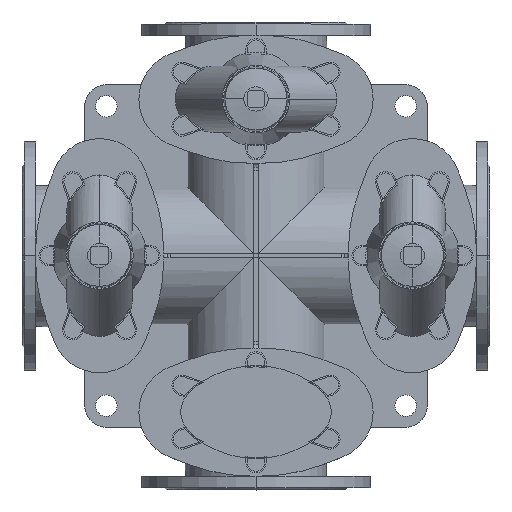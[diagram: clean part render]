
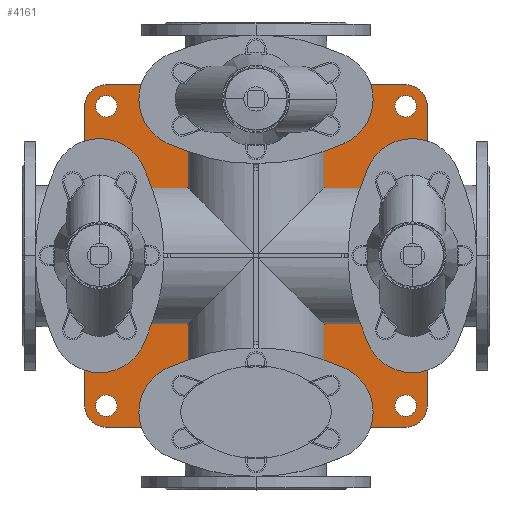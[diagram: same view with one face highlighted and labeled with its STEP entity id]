
A CAD part, top view. The second image highlights one B-rep face of the part: STEP entity #4161.
In plain terms, the highlighted planar face has unit normal (0, 0, 1).
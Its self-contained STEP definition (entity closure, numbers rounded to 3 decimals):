
#4161=ADVANCED_FACE('',(#9054,#9055,#9056,#9057,#9058),#9059,.F.);
#9054=FACE_BOUND('',#16173,.T.);
#9055=FACE_BOUND('',#16174,.T.);
#9056=FACE_BOUND('',#16175,.T.);
#9057=FACE_BOUND('',#16176,.T.);
#9058=FACE_OUTER_BOUND('',#16177,.T.);
#9059=PLANE('',#16178);
#16173=EDGE_LOOP('',(#23358,#23359));
#16174=EDGE_LOOP('',(#23360,#23361));
#16175=EDGE_LOOP('',(#23362,#23363));
#16176=EDGE_LOOP('',(#23364,#23365));
#16177=EDGE_LOOP('',(#23366,#23367,#23368,#23369,#23370,#23371,#23372,#23373));
#16178=AXIS2_PLACEMENT_3D('',#23374,#23375,#23376);
#23358=ORIENTED_EDGE('',*,*,#39290,.T.);
#23359=ORIENTED_EDGE('',*,*,#38700,.T.);
#23360=ORIENTED_EDGE('',*,*,#39291,.T.);
#23361=ORIENTED_EDGE('',*,*,#39292,.T.);
#23362=ORIENTED_EDGE('',*,*,#39293,.T.);
#23363=ORIENTED_EDGE('',*,*,#39294,.T.);
#23364=ORIENTED_EDGE('',*,*,#39295,.T.);
#23365=ORIENTED_EDGE('',*,*,#39296,.T.);
#23366=ORIENTED_EDGE('',*,*,#38674,.F.);
#23367=ORIENTED_EDGE('',*,*,#39297,.F.);
#23368=ORIENTED_EDGE('',*,*,#39298,.F.);
#23369=ORIENTED_EDGE('',*,*,#39299,.F.);
#23370=ORIENTED_EDGE('',*,*,#39300,.F.);
#23371=ORIENTED_EDGE('',*,*,#39301,.F.);
#23372=ORIENTED_EDGE('',*,*,#39302,.F.);
#23373=ORIENTED_EDGE('',*,*,#39303,.F.);
#23374=CARTESIAN_POINT('',(347.5,0.,27.0));
#23375=DIRECTION('',(0.0,0.0,-1.0));
#23376=DIRECTION('',(-1.0,0.0,0.0));
#38674=EDGE_CURVE('',#45354,#45355,#45356,.T.);
#38700=EDGE_CURVE('',#45402,#45399,#45403,.T.);
#39290=EDGE_CURVE('',#45399,#45402,#46444,.T.);
#39291=EDGE_CURVE('',#46445,#46446,#46447,.T.);
#39292=EDGE_CURVE('',#46446,#46445,#46448,.T.);
#39293=EDGE_CURVE('',#46449,#46450,#46451,.T.);
#39294=EDGE_CURVE('',#46450,#46449,#46452,.T.);
#39295=EDGE_CURVE('',#46453,#46454,#46455,.T.);
#39296=EDGE_CURVE('',#46454,#46453,#46456,.T.);
#39297=EDGE_CURVE('',#46457,#45354,#46458,.T.);
#39298=EDGE_CURVE('',#46459,#46457,#46460,.T.);
#39299=EDGE_CURVE('',#46461,#46459,#46462,.T.);
#39300=EDGE_CURVE('',#46463,#46461,#46464,.T.);
#39301=EDGE_CURVE('',#46465,#46463,#46466,.T.);
#39302=EDGE_CURVE('',#46467,#46465,#46468,.T.);
#39303=EDGE_CURVE('',#45355,#46467,#46469,.T.);
#45354=VERTEX_POINT('',#54895);
#45355=VERTEX_POINT('',#54896);
#45356=LINE('',#54897,#54898);
#45399=VERTEX_POINT('',#54956);
#45402=VERTEX_POINT('',#54960);
#45403=CIRCLE('',#54961,16.0);
#46444=CIRCLE('',#56264,16.0);
#46445=VERTEX_POINT('',#56265);
#46446=VERTEX_POINT('',#56266);
#46447=CIRCLE('',#56267,16.0);
#46448=CIRCLE('',#56268,16.0);
#46449=VERTEX_POINT('',#56269);
#46450=VERTEX_POINT('',#56270);
#46451=CIRCLE('',#56271,16.0);
#46452=CIRCLE('',#56272,16.0);
#46453=VERTEX_POINT('',#56273);
#46454=VERTEX_POINT('',#56274);
#46455=CIRCLE('',#56275,16.0);
#46456=CIRCLE('',#56276,16.0);
#46457=VERTEX_POINT('',#56277);
#46458=CIRCLE('',#56278,32.0);
#46459=VERTEX_POINT('',#56279);
#46460=LINE('',#56280,#56281);
#46461=VERTEX_POINT('',#56282);
#46462=CIRCLE('',#56283,32.0);
#46463=VERTEX_POINT('',#56284);
#46464=LINE('',#56285,#56286);
#46465=VERTEX_POINT('',#56287);
#46466=CIRCLE('',#56288,32.0);
#46467=VERTEX_POINT('',#56289);
#46468=LINE('',#56290,#56291);
#46469=CIRCLE('',#56292,32.0);
#54895=CARTESIAN_POINT('',(570.0,-254.5,27.0));
#54896=CARTESIAN_POINT('',(125.0,-254.5,27.0));
#54897=CARTESIAN_POINT('',(570.0,-254.5,27.0));
#54898=VECTOR('',#66671,1.0);
#54956=CARTESIAN_POINT('',(141.0,222.5,27.0));
#54960=CARTESIAN_POINT('',(109.0,222.5,27.0));
#54961=AXIS2_PLACEMENT_3D('',#66700,#66701,#66702);
#56264=AXIS2_PLACEMENT_3D('',#67616,#67617,#67618);
#56265=CARTESIAN_POINT('',(141.0,-222.5,27.0));
#56266=CARTESIAN_POINT('',(109.0,-222.5,27.0));
#56267=AXIS2_PLACEMENT_3D('',#67619,#67620,#67621);
#56268=AXIS2_PLACEMENT_3D('',#67622,#67623,#67624);
#56269=CARTESIAN_POINT('',(586.0,-222.5,27.0));
#56270=CARTESIAN_POINT('',(554.0,-222.5,27.0));
#56271=AXIS2_PLACEMENT_3D('',#67625,#67626,#67627);
#56272=AXIS2_PLACEMENT_3D('',#67628,#67629,#67630);
#56273=CARTESIAN_POINT('',(586.0,222.5,27.0));
#56274=CARTESIAN_POINT('',(554.0,222.5,27.0));
#56275=AXIS2_PLACEMENT_3D('',#67631,#67632,#67633);
#56276=AXIS2_PLACEMENT_3D('',#67634,#67635,#67636);
#56277=CARTESIAN_POINT('',(602.0,-222.5,27.0));
#56278=AXIS2_PLACEMENT_3D('',#67637,#67638,#67639);
#56279=CARTESIAN_POINT('',(602.0,222.5,27.0));
#56280=CARTESIAN_POINT('',(602.0,222.5,27.0));
#56281=VECTOR('',#67640,1.0);
#56282=CARTESIAN_POINT('',(570.0,254.5,27.0));
#56283=AXIS2_PLACEMENT_3D('',#67641,#67642,#67643);
#56284=CARTESIAN_POINT('',(125.0,254.5,27.0));
#56285=CARTESIAN_POINT('',(125.0,254.5,27.0));
#56286=VECTOR('',#67644,1.0);
#56287=CARTESIAN_POINT('',(93.0,222.5,27.0));
#56288=AXIS2_PLACEMENT_3D('',#67645,#67646,#67647);
#56289=CARTESIAN_POINT('',(93.0,-222.5,27.0));
#56290=CARTESIAN_POINT('',(93.0,-222.5,27.0));
#56291=VECTOR('',#67648,1.0);
#56292=AXIS2_PLACEMENT_3D('',#67649,#67650,#67651);
#66671=DIRECTION('',(-1.0,0.0,0.0));
#66700=CARTESIAN_POINT('',(125.0,222.5,27.0));
#66701=DIRECTION('',(0.0,0.0,-1.0));
#66702=DIRECTION('',(1.0,0.0,0.0));
#67616=CARTESIAN_POINT('',(125.0,222.5,27.0));
#67617=DIRECTION('',(0.0,0.0,-1.0));
#67618=DIRECTION('',(1.0,0.0,0.0));
#67619=CARTESIAN_POINT('',(125.0,-222.5,27.0));
#67620=DIRECTION('',(0.0,0.0,-1.0));
#67621=DIRECTION('',(1.0,0.0,0.0));
#67622=CARTESIAN_POINT('',(125.0,-222.5,27.0));
#67623=DIRECTION('',(0.0,0.0,-1.0));
#67624=DIRECTION('',(1.0,0.0,0.0));
#67625=CARTESIAN_POINT('',(570.0,-222.5,27.0));
#67626=DIRECTION('',(0.0,0.0,-1.0));
#67627=DIRECTION('',(1.0,0.0,0.0));
#67628=CARTESIAN_POINT('',(570.0,-222.5,27.0));
#67629=DIRECTION('',(0.0,0.0,-1.0));
#67630=DIRECTION('',(1.0,0.0,0.0));
#67631=CARTESIAN_POINT('',(570.0,222.5,27.0));
#67632=DIRECTION('',(0.0,0.0,-1.0));
#67633=DIRECTION('',(1.0,0.0,0.0));
#67634=CARTESIAN_POINT('',(570.0,222.5,27.0));
#67635=DIRECTION('',(0.0,0.0,-1.0));
#67636=DIRECTION('',(1.0,0.0,0.0));
#67637=CARTESIAN_POINT('',(570.0,-222.5,27.0));
#67638=DIRECTION('',(0.0,0.0,-1.0));
#67639=DIRECTION('',(-1.0,0.0,0.0));
#67640=DIRECTION('',(0.0,-1.0,0.0));
#67641=CARTESIAN_POINT('',(570.0,222.5,27.0));
#67642=DIRECTION('',(0.0,0.0,-1.0));
#67643=DIRECTION('',(-1.0,0.0,0.0));
#67644=DIRECTION('',(1.0,0.0,0.0));
#67645=CARTESIAN_POINT('',(125.0,222.5,27.0));
#67646=DIRECTION('',(0.0,0.0,-1.0));
#67647=DIRECTION('',(-1.0,0.0,0.0));
#67648=DIRECTION('',(0.0,1.0,0.0));
#67649=CARTESIAN_POINT('',(125.0,-222.5,27.0));
#67650=DIRECTION('',(0.0,0.0,-1.0));
#67651=DIRECTION('',(-1.0,0.0,0.0));
